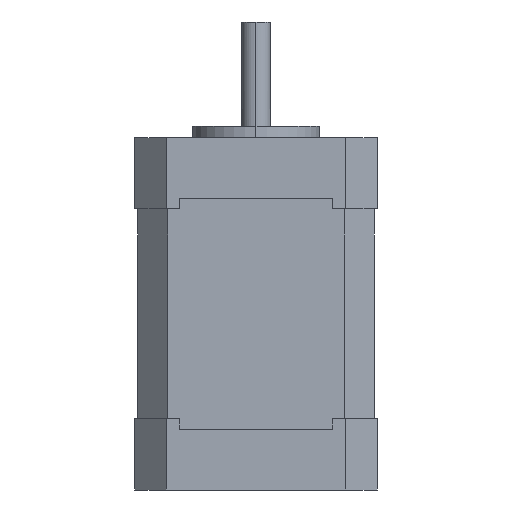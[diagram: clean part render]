
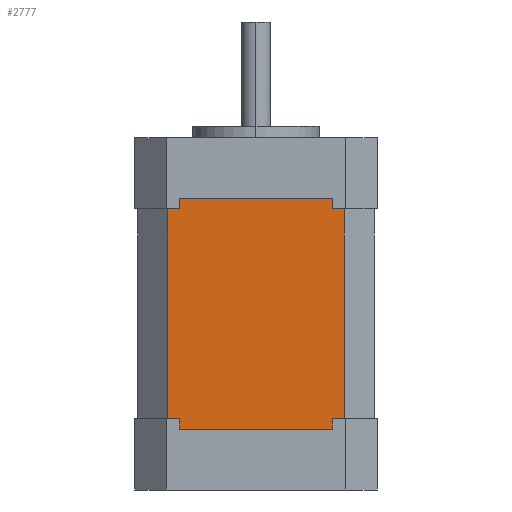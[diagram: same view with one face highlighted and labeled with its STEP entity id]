
A CAD part, left-side view. The second image highlights one B-rep face of the part: STEP entity #2777.
In plain terms, the highlighted planar face has unit normal (-1, 0, 0).
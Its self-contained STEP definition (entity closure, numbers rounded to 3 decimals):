
#2 = ORIENTED_EDGE ( 'NONE', *, *, #2754, .F. ) ;
#31 = EDGE_CURVE ( 'NONE', #129, #2833, #2481, .T. ) ;
#38 = ORIENTED_EDGE ( 'NONE', *, *, #247, .F. ) ;
#129 = VERTEX_POINT ( 'NONE', #1334 ) ;
#184 = LINE ( 'NONE', #703, #2395 ) ;
#196 = ORIENTED_EDGE ( 'NONE', *, *, #1238, .F. ) ;
#205 = VECTOR ( 'NONE', #1353, 1000. ) ;
#223 = VERTEX_POINT ( 'NONE', #975 ) ;
#247 = EDGE_CURVE ( 'NONE', #814, #719, #2422, .T. ) ;
#255 = VERTEX_POINT ( 'NONE', #369 ) ;
#283 = VERTEX_POINT ( 'NONE', #2373 ) ;
#296 = CARTESIAN_POINT ( 'NONE',  ( -20.5, -15.293, -48.65 ) ) ;
#317 = CARTESIAN_POINT ( 'NONE',  ( -20.5, -13.25, -12.35 ) ) ;
#324 = DIRECTION ( 'NONE',  ( 0., 1., 0. ) ) ;
#355 = VECTOR ( 'NONE', #1368, 1000. ) ;
#369 = CARTESIAN_POINT ( 'NONE',  ( -20.5, -13.25, -48.65 ) ) ;
#420 = VECTOR ( 'NONE', #1449, 1000. ) ;
#463 = CARTESIAN_POINT ( 'NONE',  ( -20.5, -15.293, -12.35 ) ) ;
#487 = CARTESIAN_POINT ( 'NONE',  ( -20.5, 15.293, -12.35 ) ) ;
#490 = VECTOR ( 'NONE', #2719, 1000. ) ;
#522 = CARTESIAN_POINT ( 'NONE',  ( -20.5, 13.25, -50.5 ) ) ;
#535 = ORIENTED_EDGE ( 'NONE', *, *, #2583, .T. ) ;
#580 = LINE ( 'NONE', #296, #1696 ) ;
#626 = EDGE_CURVE ( 'NONE', #223, #255, #580, .T. ) ;
#683 = VECTOR ( 'NONE', #1110, 1000. ) ;
#703 = CARTESIAN_POINT ( 'NONE',  ( -20.5, -15.293, -48.65 ) ) ;
#719 = VERTEX_POINT ( 'NONE', #317 ) ;
#764 = CARTESIAN_POINT ( 'NONE',  ( -20.5, 13.25, -50.5 ) ) ;
#814 = VERTEX_POINT ( 'NONE', #1985 ) ;
#825 = DIRECTION ( 'NONE',  ( -1., 0., 0. ) ) ;
#844 = CARTESIAN_POINT ( 'NONE',  ( -20.5, 13.25, -48.65 ) ) ;
#855 = ORIENTED_EDGE ( 'NONE', *, *, #626, .F. ) ;
#877 = VECTOR ( 'NONE', #2542, 1000. ) ;
#935 = LINE ( 'NONE', #2679, #355 ) ;
#966 = DIRECTION ( 'NONE',  ( 0., 1., 0. ) ) ;
#975 = CARTESIAN_POINT ( 'NONE',  ( -20.5, -15.293, -48.65 ) ) ;
#1110 = DIRECTION ( 'NONE',  ( 0., -1., 0. ) ) ;
#1223 = CARTESIAN_POINT ( 'NONE',  ( -20.5, -15.293, -12.35 ) ) ;
#1238 = EDGE_CURVE ( 'NONE', #1602, #129, #2417, .T. ) ;
#1263 = CARTESIAN_POINT ( 'NONE',  ( -20.5, -13.25, -50.5 ) ) ;
#1275 = PLANE ( 'NONE',  #1497 ) ;
#1289 = LINE ( 'NONE', #1979, #683 ) ;
#1319 = DIRECTION ( 'NONE',  ( 0., 0., 1. ) ) ;
#1334 = CARTESIAN_POINT ( 'NONE',  ( -20.5, 13.25, -50.5 ) ) ;
#1353 = DIRECTION ( 'NONE',  ( 0., 1., 0. ) ) ;
#1368 = DIRECTION ( 'NONE',  ( 0., 0., 1. ) ) ;
#1410 = CARTESIAN_POINT ( 'NONE',  ( -20.5, -13.25, -50.5 ) ) ;
#1447 = EDGE_CURVE ( 'NONE', #283, #814, #1289, .T. ) ;
#1449 = DIRECTION ( 'NONE',  ( 0., 0., 1. ) ) ;
#1481 = LINE ( 'NONE', #764, #420 ) ;
#1482 = ORIENTED_EDGE ( 'NONE', *, *, #1447, .F. ) ;
#1497 = AXIS2_PLACEMENT_3D ( 'NONE', #2150, #825, #2375 ) ;
#1510 = VERTEX_POINT ( 'NONE', #2671 ) ;
#1511 = VERTEX_POINT ( 'NONE', #463 ) ;
#1522 = ORIENTED_EDGE ( 'NONE', *, *, #1527, .T. ) ;
#1527 = EDGE_CURVE ( 'NONE', #223, #1511, #935, .T. ) ;
#1574 = FACE_OUTER_BOUND ( 'NONE', #2738, .T. ) ;
#1602 = VERTEX_POINT ( 'NONE', #1865 ) ;
#1610 = ORIENTED_EDGE ( 'NONE', *, *, #2617, .T. ) ;
#1628 = LINE ( 'NONE', #1223, #2218 ) ;
#1641 = VECTOR ( 'NONE', #1706, 1000. ) ;
#1652 = CARTESIAN_POINT ( 'NONE',  ( -20.5, -15.293, -12.35 ) ) ;
#1681 = LINE ( 'NONE', #2517, #490 ) ;
#1696 = VECTOR ( 'NONE', #966, 1000. ) ;
#1697 = EDGE_CURVE ( 'NONE', #2253, #1741, #1628, .T. ) ;
#1706 = DIRECTION ( 'NONE',  ( 0., 0., -1. ) ) ;
#1741 = VERTEX_POINT ( 'NONE', #487 ) ;
#1789 = EDGE_CURVE ( 'NONE', #2833, #1510, #184, .T. ) ;
#1808 = ORIENTED_EDGE ( 'NONE', *, *, #1697, .T. ) ;
#1811 = ORIENTED_EDGE ( 'NONE', *, *, #1789, .F. ) ;
#1835 = VECTOR ( 'NONE', #2302, 1000. ) ;
#1865 = CARTESIAN_POINT ( 'NONE',  ( -20.5, -13.25, -50.5 ) ) ;
#1905 = VECTOR ( 'NONE', #1319, 1000. ) ;
#1979 = CARTESIAN_POINT ( 'NONE',  ( -20.5, 13.25, -10.5 ) ) ;
#1985 = CARTESIAN_POINT ( 'NONE',  ( -20.5, -13.25, -10.5 ) ) ;
#2111 = ORIENTED_EDGE ( 'NONE', *, *, #2618, .F. ) ;
#2127 = LINE ( 'NONE', #1652, #877 ) ;
#2150 = CARTESIAN_POINT ( 'NONE',  ( -20.5, -15.293, -12.35 ) ) ;
#2172 = ORIENTED_EDGE ( 'NONE', *, *, #31, .F. ) ;
#2218 = VECTOR ( 'NONE', #324, 1000. ) ;
#2226 = LINE ( 'NONE', #1263, #1641 ) ;
#2253 = VERTEX_POINT ( 'NONE', #2496 ) ;
#2302 = DIRECTION ( 'NONE',  ( 0., 0., -1. ) ) ;
#2373 = CARTESIAN_POINT ( 'NONE',  ( -20.5, 13.25, -10.5 ) ) ;
#2375 = DIRECTION ( 'NONE',  ( 0., -1., 0. ) ) ;
#2395 = VECTOR ( 'NONE', #2482, 1000. ) ;
#2417 = LINE ( 'NONE', #2664, #205 ) ;
#2422 = LINE ( 'NONE', #1410, #1835 ) ;
#2481 = LINE ( 'NONE', #522, #1905 ) ;
#2482 = DIRECTION ( 'NONE',  ( 0., 1., 0. ) ) ;
#2496 = CARTESIAN_POINT ( 'NONE',  ( -20.5, 13.25, -12.35 ) ) ;
#2517 = CARTESIAN_POINT ( 'NONE',  ( -20.5, 15.293, -12.35 ) ) ;
#2542 = DIRECTION ( 'NONE',  ( 0., 1., 0. ) ) ;
#2583 = EDGE_CURVE ( 'NONE', #1741, #1510, #1681, .T. ) ;
#2617 = EDGE_CURVE ( 'NONE', #1511, #719, #2127, .T. ) ;
#2618 = EDGE_CURVE ( 'NONE', #2253, #283, #1481, .T. ) ;
#2664 = CARTESIAN_POINT ( 'NONE',  ( -20.5, 13.25, -50.5 ) ) ;
#2671 = CARTESIAN_POINT ( 'NONE',  ( -20.5, 15.293, -48.65 ) ) ;
#2679 = CARTESIAN_POINT ( 'NONE',  ( -20.5, -15.293, -12.35 ) ) ;
#2719 = DIRECTION ( 'NONE',  ( 0., 0., -1. ) ) ;
#2738 = EDGE_LOOP ( 'NONE', ( #1610, #38, #1482, #2111, #1808, #535, #1811, #2172, #196, #2, #855, #1522 ) ) ;
#2754 = EDGE_CURVE ( 'NONE', #255, #1602, #2226, .T. ) ;
#2777 = ADVANCED_FACE ( 'NONE', ( #1574 ), #1275, .T. ) ;
#2833 = VERTEX_POINT ( 'NONE', #844 ) ;
